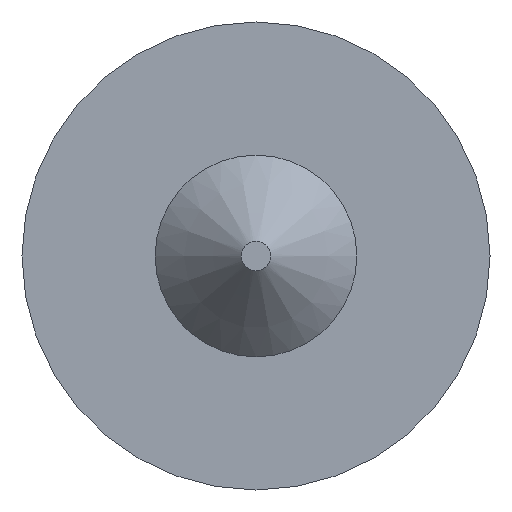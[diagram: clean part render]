
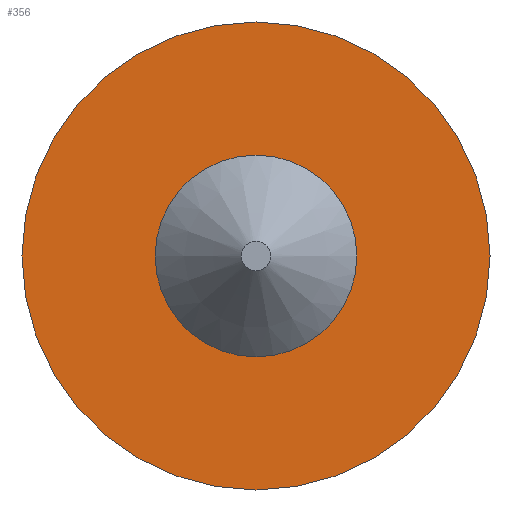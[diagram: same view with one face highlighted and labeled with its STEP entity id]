
A CAD part, front view. The second image highlights one B-rep face of the part: STEP entity #356.
In plain terms, the highlighted planar face has unit normal (0, -1, 0).
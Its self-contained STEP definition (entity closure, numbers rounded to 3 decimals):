
#16=FACE_BOUND('',#77,.T.);
#33=PLANE('',#398);
#55=FACE_OUTER_BOUND('',#76,.T.);
#76=EDGE_LOOP('',(#334));
#77=EDGE_LOOP('',(#335));
#158=CIRCLE('',#375,0.819);
#163=CIRCLE('',#396,1.9);
#166=VERTEX_POINT('',#504);
#194=VERTEX_POINT('',#590);
#199=EDGE_CURVE('',#166,#166,#158,.T.);
#241=EDGE_CURVE('',#194,#194,#163,.T.);
#334=ORIENTED_EDGE('',*,*,#241,.T.);
#335=ORIENTED_EDGE('',*,*,#199,.T.);
#356=ADVANCED_FACE('',(#55,#16),#33,.T.);
#375=AXIS2_PLACEMENT_3D('',#506,#411,#412);
#396=AXIS2_PLACEMENT_3D('',#592,#490,#491);
#398=AXIS2_PLACEMENT_3D('',#594,#494,#495);
#411=DIRECTION('center_axis',(0.,1.,0.));
#412=DIRECTION('ref_axis',(1.,0.,0.));
#490=DIRECTION('center_axis',(0.,-1.,0.));
#491=DIRECTION('ref_axis',(1.,0.,0.));
#494=DIRECTION('center_axis',(0.,-1.,0.));
#495=DIRECTION('ref_axis',(-1.,0.,0.));
#504=CARTESIAN_POINT('',(-0.819,0.,0.));
#506=CARTESIAN_POINT('Origin',(0.,0.,0.));
#590=CARTESIAN_POINT('',(-1.9,0.,0.));
#592=CARTESIAN_POINT('Origin',(0.,0.,0.));
#594=CARTESIAN_POINT('Origin',(0.,0.,0.));
